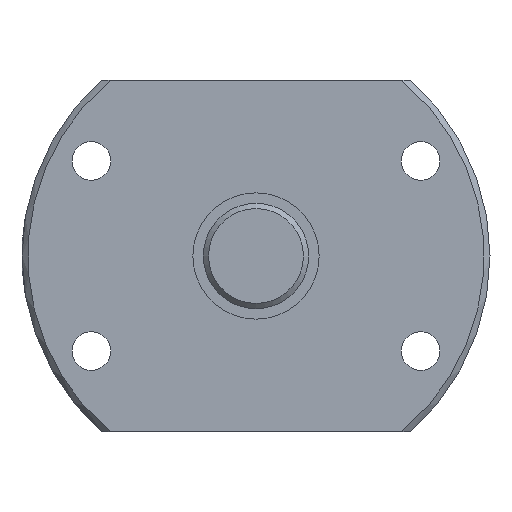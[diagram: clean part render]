
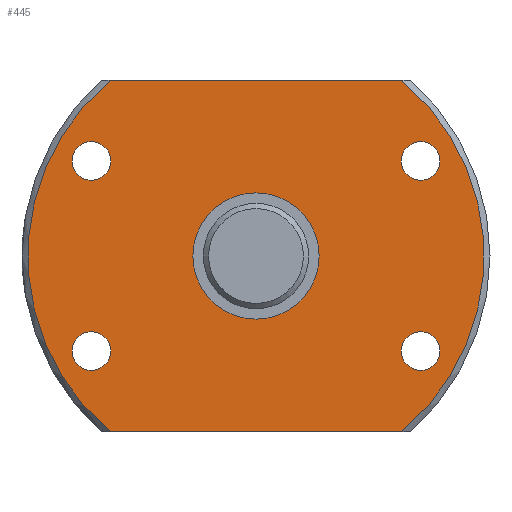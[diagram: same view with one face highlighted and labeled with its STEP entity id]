
A CAD part, left-side view. The second image highlights one B-rep face of the part: STEP entity #445.
In plain terms, the highlighted planar face has unit normal (-1, 0, 0).
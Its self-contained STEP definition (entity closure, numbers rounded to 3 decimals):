
#32=LINE('',#786,#40);
#33=LINE('',#790,#41);
#40=VECTOR('',#613,1000.);
#41=VECTOR('',#616,1000.);
#66=PLANE('',#515);
#102=ORIENTED_EDGE('',*,*,#196,.T.);
#103=ORIENTED_EDGE('',*,*,#197,.F.);
#104=ORIENTED_EDGE('',*,*,#198,.F.);
#105=ORIENTED_EDGE('',*,*,#199,.F.);
#106=ORIENTED_EDGE('',*,*,#186,.F.);
#107=ORIENTED_EDGE('',*,*,#200,.T.);
#108=ORIENTED_EDGE('',*,*,#201,.T.);
#109=ORIENTED_EDGE('',*,*,#202,.T.);
#110=ORIENTED_EDGE('',*,*,#203,.T.);
#186=EDGE_CURVE('',#234,#235,#273,.T.);
#196=EDGE_CURVE('',#244,#244,#278,.T.);
#197=EDGE_CURVE('',#245,#234,#32,.T.);
#198=EDGE_CURVE('',#246,#245,#279,.T.);
#199=EDGE_CURVE('',#235,#246,#33,.T.);
#200=EDGE_CURVE('',#247,#247,#280,.T.);
#201=EDGE_CURVE('',#248,#248,#281,.T.);
#202=EDGE_CURVE('',#249,#249,#282,.T.);
#203=EDGE_CURVE('',#250,#250,#283,.T.);
#234=VERTEX_POINT('',#738);
#235=VERTEX_POINT('',#740);
#244=VERTEX_POINT('',#785);
#245=VERTEX_POINT('',#787);
#246=VERTEX_POINT('',#789);
#247=VERTEX_POINT('',#792);
#248=VERTEX_POINT('',#794);
#249=VERTEX_POINT('',#796);
#250=VERTEX_POINT('',#798);
#273=CIRCLE('',#508,39.);
#278=CIRCLE('',#516,10.8);
#279=CIRCLE('',#517,39.);
#280=CIRCLE('',#518,3.3);
#281=CIRCLE('',#519,3.3);
#282=CIRCLE('',#520,3.3);
#283=CIRCLE('',#521,3.3);
#314=EDGE_LOOP('',(#102));
#315=EDGE_LOOP('',(#103,#104,#105,#106));
#316=EDGE_LOOP('',(#107));
#317=EDGE_LOOP('',(#108));
#318=EDGE_LOOP('',(#109));
#319=EDGE_LOOP('',(#110));
#376=FACE_BOUND('',#314,.T.);
#377=FACE_BOUND('',#315,.T.);
#378=FACE_BOUND('',#316,.T.);
#379=FACE_BOUND('',#317,.T.);
#380=FACE_BOUND('',#318,.T.);
#381=FACE_BOUND('',#319,.T.);
#445=ADVANCED_FACE('',(#376,#377,#378,#379,#380,#381),#66,.T.);
#508=AXIS2_PLACEMENT_3D('',#739,#593,#594);
#515=AXIS2_PLACEMENT_3D('',#783,#609,#610);
#516=AXIS2_PLACEMENT_3D('',#784,#611,#612);
#517=AXIS2_PLACEMENT_3D('',#788,#614,#615);
#518=AXIS2_PLACEMENT_3D('',#791,#617,#618);
#519=AXIS2_PLACEMENT_3D('',#793,#619,#620);
#520=AXIS2_PLACEMENT_3D('',#795,#621,#622);
#521=AXIS2_PLACEMENT_3D('',#797,#623,#624);
#593=DIRECTION('',(1.,0.,0.));
#594=DIRECTION('',(0.,0.,-1.));
#609=DIRECTION('',(-1.,0.,0.));
#610=DIRECTION('',(0.,0.,1.));
#611=DIRECTION('',(1.,0.,0.));
#612=DIRECTION('',(0.,0.,-1.));
#613=DIRECTION('',(0.,-1.,0.));
#614=DIRECTION('',(1.,0.,0.));
#615=DIRECTION('',(0.,0.,-1.));
#616=DIRECTION('',(0.,1.,0.));
#617=DIRECTION('',(1.,0.,0.));
#618=DIRECTION('',(0.,0.,-1.));
#619=DIRECTION('',(1.,0.,0.));
#620=DIRECTION('',(0.,0.,-1.));
#621=DIRECTION('',(1.,0.,0.));
#622=DIRECTION('',(0.,0.,-1.));
#623=DIRECTION('',(1.,0.,0.));
#624=DIRECTION('',(0.,0.,-1.));
#738=CARTESIAN_POINT('',(0.,-24.92,30.));
#739=CARTESIAN_POINT('',(0.,0.,0.));
#740=CARTESIAN_POINT('',(0.,-24.92,-30.));
#783=CARTESIAN_POINT('',(0.,39.,0.));
#784=CARTESIAN_POINT('',(0.,0.,0.));
#785=CARTESIAN_POINT('',(0.,0.,-10.8));
#786=CARTESIAN_POINT('',(0.,40.1,30.));
#787=CARTESIAN_POINT('',(0.,24.92,30.));
#788=CARTESIAN_POINT('',(0.,0.,0.));
#789=CARTESIAN_POINT('',(0.,24.92,-30.));
#790=CARTESIAN_POINT('',(0.,-40.1,-30.));
#791=CARTESIAN_POINT('',(0.,-28.146,16.25));
#792=CARTESIAN_POINT('',(0.,-28.146,12.95));
#793=CARTESIAN_POINT('',(0.,-28.146,-16.25));
#794=CARTESIAN_POINT('',(0.,-28.146,-19.55));
#795=CARTESIAN_POINT('',(0.,28.146,-16.25));
#796=CARTESIAN_POINT('',(0.,28.146,-19.55));
#797=CARTESIAN_POINT('',(0.,28.146,16.25));
#798=CARTESIAN_POINT('',(0.,28.146,12.95));
